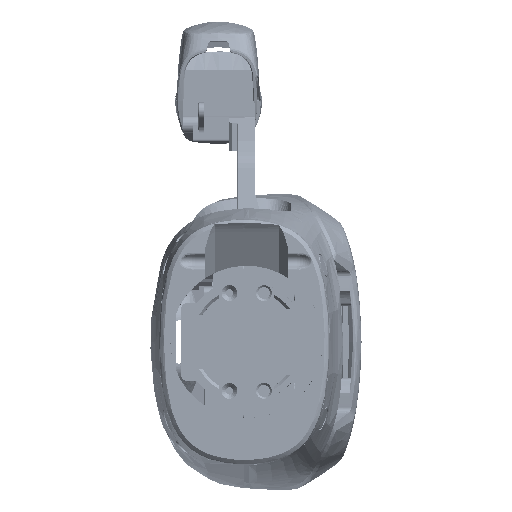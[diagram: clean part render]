
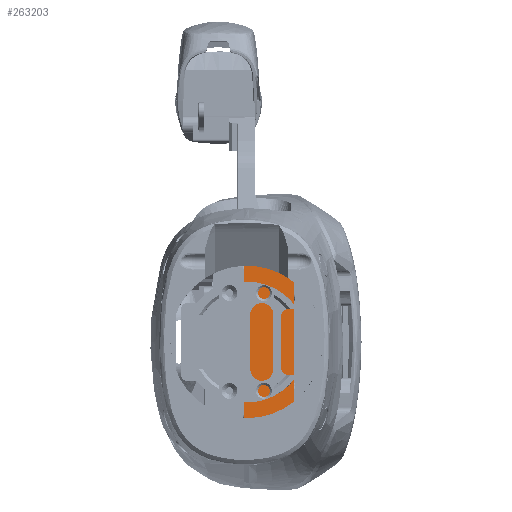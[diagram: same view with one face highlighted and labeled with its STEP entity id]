
A CAD part, front view. The second image highlights one B-rep face of the part: STEP entity #263203.
In plain terms, the highlighted planar face has unit normal (0, -1, 0).
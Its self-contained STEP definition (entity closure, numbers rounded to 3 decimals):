
#241690=DIRECTION('',(-1.,0.,
0.));
#241691=VECTOR('',#241690,71.292);
#241692=CARTESIAN_POINT('',(79.539,-73.338,
43.546));
#241693=LINE('',#241692,#241691);
#242603=DIRECTION('',(0.,0.,-1.));
#242604=VECTOR('',#242603,17.5);
#242605=CARTESIAN_POINT('',(8.247,-73.338,
43.546));
#242606=LINE('',#242605,#242604);
#242697=DIRECTION('',(-1.,0.,
0.));
#242698=VECTOR('',#242697,71.292);
#242699=CARTESIAN_POINT('',(79.539,-73.338,
26.046));
#242700=LINE('',#242699,#242698);
#243349=DIRECTION('',(0.,0.,-1.));
#243350=VECTOR('',#243349,17.5);
#243351=CARTESIAN_POINT('',(79.539,-73.338,
43.546));
#243352=LINE('',#243351,#243350);
#250081=CARTESIAN_POINT('',(79.539,-73.338,
43.546));
#250082=CARTESIAN_POINT('',(8.247,-73.338,
43.546));
#250083=VERTEX_POINT('',#250081);
#250084=VERTEX_POINT('',#250082);
#250085=CARTESIAN_POINT('',(79.539,-73.338,
26.046));
#250086=VERTEX_POINT('',#250085);
#250087=CARTESIAN_POINT('',(8.247,-73.338,
26.046));
#250088=VERTEX_POINT('',#250087);
#263192=CARTESIAN_POINT('',(79.539,-73.338,
43.546));
#263193=DIRECTION('',(0.,-1.,0.));
#263194=DIRECTION('',(-1.,0.,
0.));
#263195=AXIS2_PLACEMENT_3D('',#263192,#263193,#263194);
#263196=PLANE('',#263195);
#263197=ORIENTED_EDGE('',*,*,#260475,.F.);
#263198=ORIENTED_EDGE('',*,*,#260462,.T.);
#263199=ORIENTED_EDGE('',*,*,#262061,.T.);
#263200=ORIENTED_EDGE('',*,*,#262012,.F.);
#263201=EDGE_LOOP('',(#263197,#263198,#263199,#263200));
#263202=FACE_OUTER_BOUND('',#263201,.F.);
#260462=EDGE_CURVE('',#250083,#250086,#243352,.T.);
#260475=EDGE_CURVE('',#250083,#250084,#241693,.T.);
#262012=EDGE_CURVE('',#250084,#250088,#242606,.T.);
#262061=EDGE_CURVE('',#250086,#250088,#242700,.T.);
#263203=ADVANCED_FACE('',(#263202),#263196,.T.);
